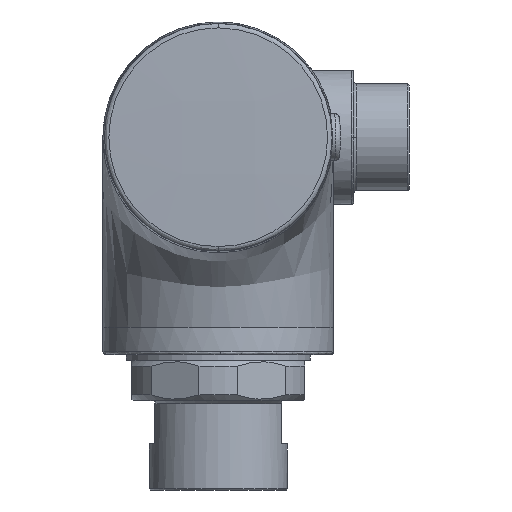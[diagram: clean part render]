
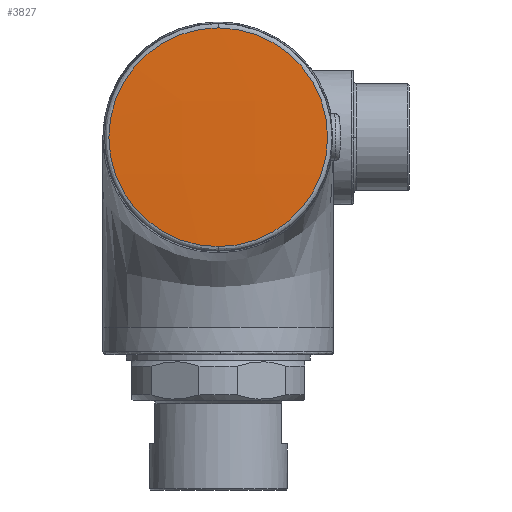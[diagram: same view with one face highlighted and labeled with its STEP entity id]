
A CAD part, left-side view. The second image highlights one B-rep face of the part: STEP entity #3827.
In plain terms, the highlighted free-form (B-spline) face has degree [3, 3] with [4, 4] control points.
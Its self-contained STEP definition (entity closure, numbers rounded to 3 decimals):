
#147 = CIRCLE ( 'NONE', #1923, 18.976 ) ;
#296 = CARTESIAN_POINT ( 'NONE',  ( -149.723, 15., 0. ) ) ;
#446 = CARTESIAN_POINT ( 'NONE',  ( -149.723, 15.015, -18.976 ) ) ;
#1356 = CARTESIAN_POINT ( 'NONE',  ( -149.809, 21.396, 19.32 ) ) ;
#1370 = EDGE_CURVE ( 'NONE', #2157, #7622, #147, .T. ) ;
#1793 = AXIS2_PLACEMENT_3D ( 'NONE', #6377, #7215, #3868 ) ;
#1807 =( BOUNDED_SURFACE ( )  B_SPLINE_SURFACE ( 3, 3, ( 
 ( #9674, #1356, #2101, #7099 ),
 ( #9597, #10462, #2134, #2924 ),
 ( #7136, #7909, #7949, #3745 ),
 ( #4647, #5506, #9558, #2995 ) ),
 .UNSPECIFIED., .F., .F., .F. ) 
 B_SPLINE_SURFACE_WITH_KNOTS ( ( 4, 4 ),
 ( 4, 4 ),
 ( 0., 1. ),
 ( 0., 1. ),
 .UNSPECIFIED. ) 
 GEOMETRIC_REPRESENTATION_ITEM ( )  RATIONAL_B_SPLINE_SURFACE ( (
 ( 1., 1., 1., 1.),
 ( 1., 0.999, 0.999, 1.),
 ( 1., 0.999, 0.999, 1.),
 ( 1., 1., 1., 1.) ) ) 
 REPRESENTATION_ITEM ( '' )  SURFACE ( )  );
#1923 = AXIS2_PLACEMENT_3D ( 'NONE', #296, #7588, #8416 ) ;
#2101 = CARTESIAN_POINT ( 'NONE',  ( -149.808, 8.523, 19.32 ) ) ;
#2134 = CARTESIAN_POINT ( 'NONE',  ( -150.19, 8.519, 6.48 ) ) ;
#2157 = VERTEX_POINT ( 'NONE', #6223 ) ;
#2924 = CARTESIAN_POINT ( 'NONE',  ( -149.806, -4.356, 6.48 ) ) ;
#2995 = CARTESIAN_POINT ( 'NONE',  ( -149.428, -4.344, -19.206 ) ) ;
#3745 = CARTESIAN_POINT ( 'NONE',  ( -149.808, -4.356, -6.366 ) ) ;
#3827 = ADVANCED_FACE ( 'NONE', ( #8383 ), #1807, .T. ) ;
#3851 = EDGE_LOOP ( 'NONE', ( #4315, #6753 ) ) ;
#3868 = DIRECTION ( 'NONE',  ( 0., 0.001, -1. ) ) ;
#4262 = EDGE_CURVE ( 'NONE', #7622, #2157, #7356, .T. ) ;
#4315 = ORIENTED_EDGE ( 'NONE', *, *, #4262, .F. ) ;
#4647 = CARTESIAN_POINT ( 'NONE',  ( -149.431, 34.263, -19.206 ) ) ;
#5506 = CARTESIAN_POINT ( 'NONE',  ( -149.812, 21.396, -19.206 ) ) ;
#6223 = CARTESIAN_POINT ( 'NONE',  ( -149.723, 14.985, 18.976 ) ) ;
#6377 = CARTESIAN_POINT ( 'NONE',  ( -149.723, 15., 0. ) ) ;
#6753 = ORIENTED_EDGE ( 'NONE', *, *, #1370, .F. ) ;
#7099 = CARTESIAN_POINT ( 'NONE',  ( -149.425, -4.344, 19.32 ) ) ;
#7136 = CARTESIAN_POINT ( 'NONE',  ( -149.81, 34.275, -6.366 ) ) ;
#7215 = DIRECTION ( 'NONE',  ( 1., 0., 0. ) ) ;
#7356 = CIRCLE ( 'NONE', #1793, 18.976 ) ;
#7588 = DIRECTION ( 'NONE',  ( 1., 0., 0. ) ) ;
#7622 = VERTEX_POINT ( 'NONE', #446 ) ;
#7909 = CARTESIAN_POINT ( 'NONE',  ( -150.192, 21.4, -6.366 ) ) ;
#7949 = CARTESIAN_POINT ( 'NONE',  ( -150.191, 8.519, -6.366 ) ) ;
#8383 = FACE_OUTER_BOUND ( 'NONE', #3851, .T. ) ;
#8416 = DIRECTION ( 'NONE',  ( 0., 0.001, -1. ) ) ;
#9558 = CARTESIAN_POINT ( 'NONE',  ( -149.811, 8.523, -19.206 ) ) ;
#9597 = CARTESIAN_POINT ( 'NONE',  ( -149.809, 34.275, 6.48 ) ) ;
#9674 = CARTESIAN_POINT ( 'NONE',  ( -149.427, 34.263, 19.32 ) ) ;
#10462 = CARTESIAN_POINT ( 'NONE',  ( -150.191, 21.4, 6.48 ) ) ;
